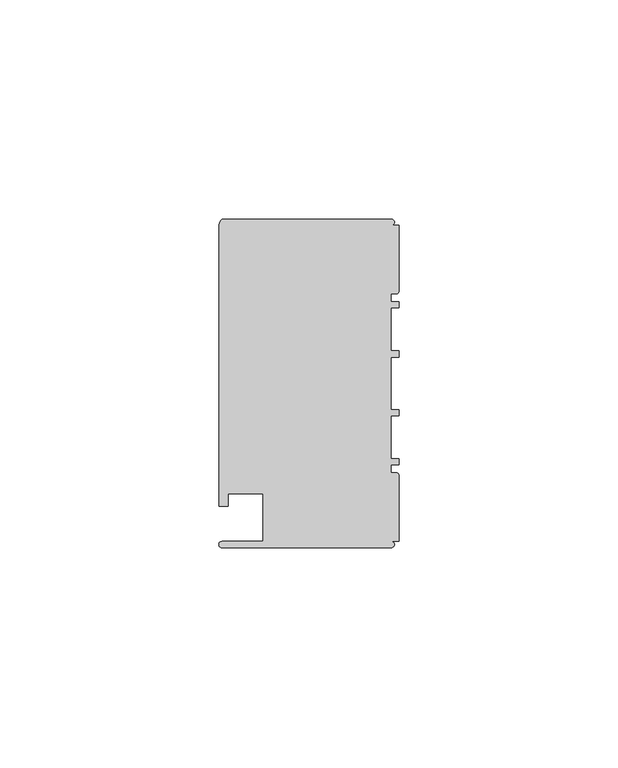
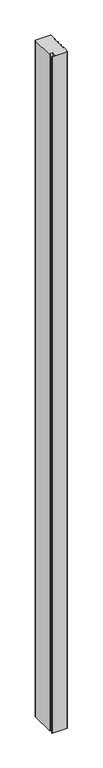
"""IFC4 building model written with IfcOpenShell, lengths in millimetres: member geometry, Прямоугольный импост : 1-AMG-1-Профиль 40Х75 Низ Л."""

from ifc_helpers import new_model, si_unit, point, frame, frame_2d, origin, place, context, project, spatial, polyline, circle_curve, trimmed, segment, composite_curve, outline, extrude, source, transform, mapped, element, save


def member_71ad35bd(model_context):
    return source(origin(), model_context, "Body", "SweptSolid", [
        extrude(outline(composite_curve([segment(polyline([(-1.7, -37.5), (-40.4, -37.5)]), True, "CONTINUOUS"), segment(trimmed(circle_curve(frame_2d((-40.4, -36.8)), 0.7), [point((-40.4, -37.5))], [point((-40.4, -36.1))], False, "CARTESIAN"), True, "CONTINUOUS"), segment(polyline([(-40.4, -36.1), (-31.0, -36.1), (-31.0, -25.25), (-39.0, -25.25), (-39.0, -28.1), (-41.1, -28.1), (-41.1, 35.6)]), True, "CONTINUOUS"), segment(trimmed(circle_curve(frame_2d((-38.1714286, 35.6)), 2.9285714), [point((-41.1, 35.6))], [point((-40.4, 37.5))], False, "CARTESIAN"), True, "CONTINUOUS"), segment(polyline([(-40.4, 37.5), (-1.7, 37.5)]), True, "CONTINUOUS"), segment(trimmed(circle_curve(frame_2d((-1.7, 36.8)), 0.7), [point((-1.7, 37.5))], [point((-1.7, 36.1))], False, "CARTESIAN"), True, "CONTINUOUS"), segment(polyline([(-1.7, 36.1), (0.0, 36.1), (0.0, 20.95)]), True, "CONTINUOUS"), segment(trimmed(circle_curve(frame_2d((-0.5, 20.95)), 0.5), [point((0.0, 20.95))], [point((-0.5, 20.45))], False, "CARTESIAN"), True, "CONTINUOUS"), segment(polyline([(-0.5, 20.45), (-1.8, 20.45), (-1.8, 18.65), (0.0, 18.65), (0.0, 17.25), (-1.8, 17.25), (-1.8, 7.4), (0.0, 7.4), (0.0, 6.0), (-1.8, 6.0), (-1.8, -6.0), (0.0, -6.0), (0.0, -7.4), (-1.8, -7.4), (-1.8, -17.25), (0.0, -17.25), (0.0, -18.65), (-1.8, -18.65), (-1.8, -20.45), (-0.5, -20.45)]), True, "CONTINUOUS"), segment(trimmed(circle_curve(frame_2d((-0.5, -20.95)), 0.5), [point((-0.5, -20.45))], [point((0.0, -20.95))], False, "CARTESIAN"), True, "CONTINUOUS"), segment(polyline([(0.0, -20.95), (0.0, -36.1), (-1.7, -36.1)]), True, "CONTINUOUS"), segment(trimmed(circle_curve(frame_2d((-1.7, -36.8)), 0.7), [point((-1.7, -36.1))], [point((-1.7, -37.5))], False, "CARTESIAN"), True, "CONTINUOUS")], self_intersect=False)), frame((0.0, 0.0, -1833.9), z_axis=(0.0, 0.0, 1.0), x_axis=(1.0, 0.0, 0.0)), (0.0, 0.0, 1.0), 1833.9),
    ])


if __name__ == "__main__":
    model = new_model("IFC4")
    model_context = context("Model", 3, world=origin())
    ifc_project = project(units=[si_unit("LENGTHUNIT", "METRE", prefix="MILLI")], contexts=[model_context])
    site = spatial("IfcSite", under=ifc_project)
    building = spatial("IfcBuilding", under=site)
    placement = place(None, origin())
    member_shape = member_71ad35bd(model_context)
    element("IfcMember", 1, ObjectType="Прямоугольный импост : 1-AMG-1-Профиль 40Х75 Низ Л", at=placement, inside=building, context=model_context, shape_type="MappedRepresentation", body=[
        mapped(member_shape, transform((0.0, 0.0, 0.0), x_axis=(1.0, 0.0, 0.0), y_axis=(0.0, 1.0, 0.0), z_axis=(0.0, 0.0, 1.0))),
    ])
    save(model, "model.ifc")
